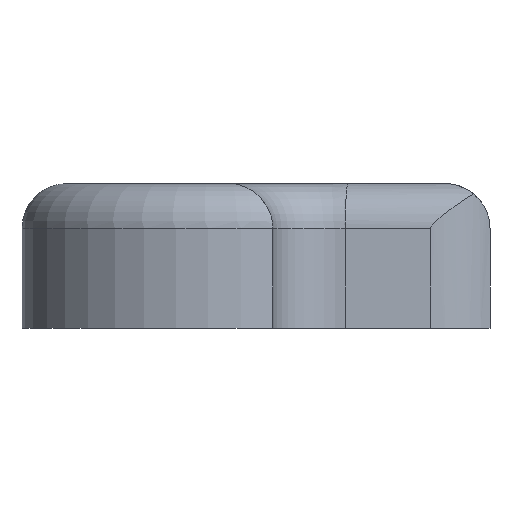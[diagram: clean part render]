
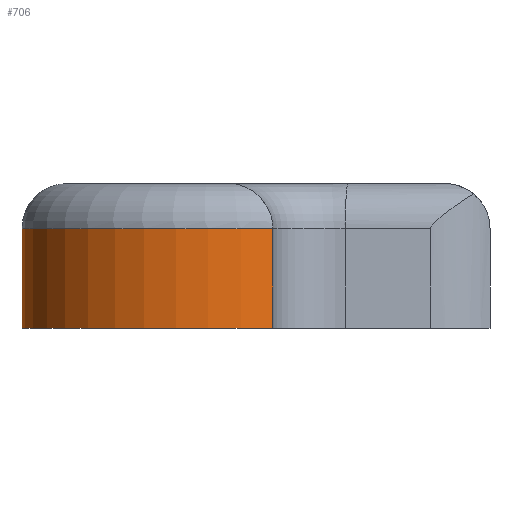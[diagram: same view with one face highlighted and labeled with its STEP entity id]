
A CAD part, left-side view. The second image highlights one B-rep face of the part: STEP entity #706.
In plain terms, the highlighted cylindrical face has radius 13.176 mm (diameter 26.352 mm), a partial arc.
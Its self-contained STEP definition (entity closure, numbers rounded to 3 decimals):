
#51=LINE('',#1232,#93);
#52=LINE('',#1235,#94);
#93=VECTOR('',#922,10.);
#94=VECTOR('',#925,10.);
#132=CYLINDRICAL_SURFACE('',#785,13.176);
#174=FACE_OUTER_BOUND('',#222,.T.);
#222=EDGE_LOOP('',(#525,#526,#527,#528));
#276=CIRCLE('',#776,13.176);
#282=CIRCLE('',#786,13.176);
#326=VERTEX_POINT('',#1169);
#328=VERTEX_POINT('',#1188);
#333=VERTEX_POINT('',#1231);
#334=VERTEX_POINT('',#1233);
#399=EDGE_CURVE('',#328,#326,#276,.T.);
#408=EDGE_CURVE('',#333,#328,#51,.T.);
#409=EDGE_CURVE('',#333,#334,#282,.T.);
#410=EDGE_CURVE('',#334,#326,#52,.T.);
#525=ORIENTED_EDGE('',*,*,#399,.F.);
#526=ORIENTED_EDGE('',*,*,#408,.F.);
#527=ORIENTED_EDGE('',*,*,#409,.T.);
#528=ORIENTED_EDGE('',*,*,#410,.T.);
#706=ADVANCED_FACE('',(#174),#132,.T.);
#776=AXIS2_PLACEMENT_3D('',#1203,#900,#901);
#785=AXIS2_PLACEMENT_3D('',#1230,#920,#921);
#786=AXIS2_PLACEMENT_3D('',#1234,#923,#924);
#900=DIRECTION('center_axis',(0.,0.,1.));
#901=DIRECTION('ref_axis',(0.,1.,0.));
#920=DIRECTION('center_axis',(0.,0.,1.));
#921=DIRECTION('ref_axis',(0.,1.,0.));
#922=DIRECTION('',(0.,0.,1.));
#923=DIRECTION('center_axis',(0.,0.,1.));
#924=DIRECTION('ref_axis',(0.949,-0.316,0.));
#925=DIRECTION('',(0.,0.,1.));
#1169=CARTESIAN_POINT('',(-25.,-4.,6.9));
#1188=CARTESIAN_POINT('',(0.,-4.,6.9));
#1203=CARTESIAN_POINT('Origin',(-12.5,0.167,6.9));
#1230=CARTESIAN_POINT('Origin',(-12.5,0.167,0.));
#1231=CARTESIAN_POINT('',(0.,-4.,0.));
#1232=CARTESIAN_POINT('',(0.,-4.,0.));
#1233=CARTESIAN_POINT('',(-25.,-4.,0.));
#1234=CARTESIAN_POINT('Origin',(-12.5,0.167,0.));
#1235=CARTESIAN_POINT('',(-25.,-4.,0.));
